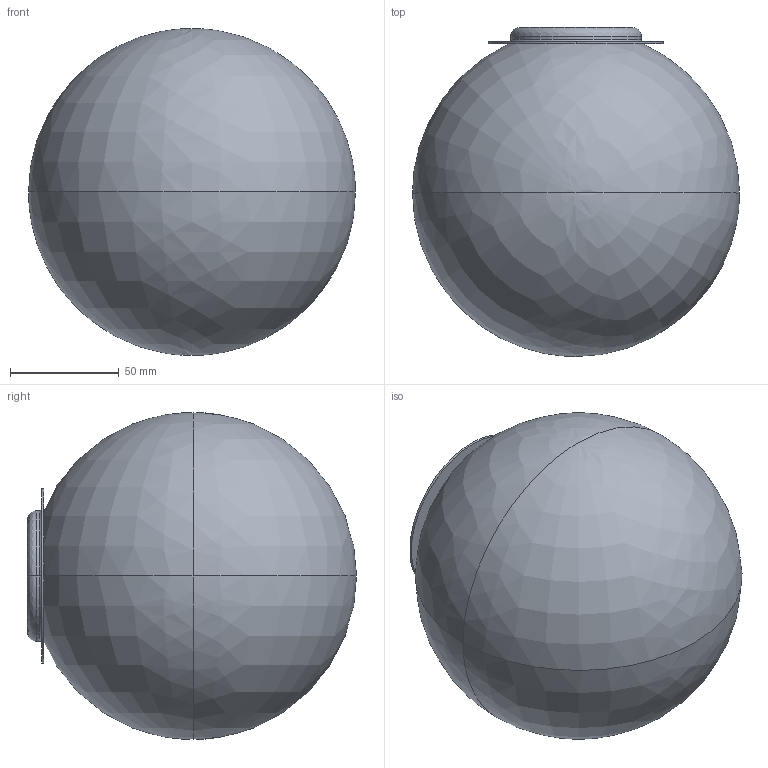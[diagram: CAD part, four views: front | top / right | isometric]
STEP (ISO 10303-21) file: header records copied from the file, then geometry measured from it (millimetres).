
FILE_DESCRIPTION(/* description */ (''),/* implementation_level */ '2;1');
FILE_NAME(/* name */ 'X115__~2',/* time_stamp */ '2025-10-31T15:29:35+01:00',/* author */ (''),/* organization */ (''),/* preprocessor_version */ 'ST-DEVELOPER v16.5',/* originating_system */ '',/* authorisation */ '');
FILE_SCHEMA (('AUTOMOTIVE_DESIGN'));
Length unit declared in the file: millimetre
Products named in the file (1): Document
Bounding box: 150 x 150.93 x 150 mm (x, y, z)
Volume: 210685.6 mm3; surface area: 152752.9 mm2
Topology: 4 solids, 4 shells, 88 faces, 206 edges, 122 vertices
Faces by surface type: bspline 76, plane 12
Entity records: 4940 total; most frequent: CARTESIAN_POINT 3814, ORIENTED_EDGE 392, EDGE_CURVE 196, VERTEX_POINT 122, EDGE_LOOP 106, ADVANCED_FACE 88, FACE_OUTER_BOUND 88, B_SPLINE_CURVE_WITH_KNOTS 46
